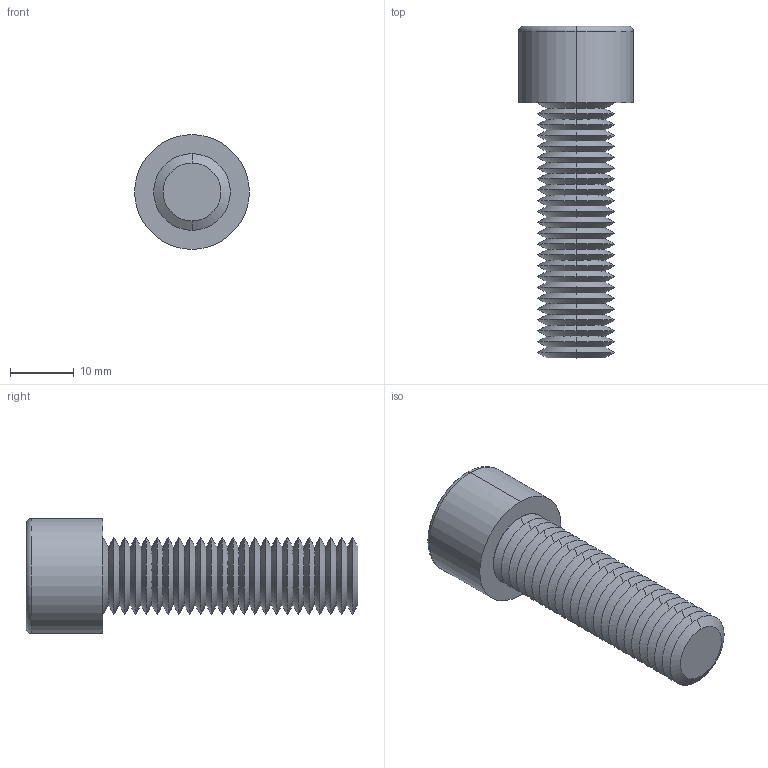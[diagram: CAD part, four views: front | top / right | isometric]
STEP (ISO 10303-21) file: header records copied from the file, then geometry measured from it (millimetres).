
FILE_DESCRIPTION (( 'STEP AP203' ), '1' );
FILE_NAME ('91N.120.0400.step', '2025-05-20T08:56:03', ( '' ), ( '' ), 'SwSTEP 2.0', 'SolidWorks 2019', '' );
FILE_SCHEMA (( 'CONFIG_CONTROL_DESIGN' ));
Length unit declared in the file: millimetre
Products named in the file (1): 91N.120.0400
Bounding box: 18 x 52 x 18 mm (x, y, z)
Volume: 5607.8 mm3; surface area: 4116.9 mm2
Topology: 1 solids, 1 shells, 124 faces, 247 edges, 125 vertices
Faces by surface type: cone 103, plane 15, cylinder 4, torus 2
Entity records: 3182 total; most frequent: DIRECTION 607, CARTESIAN_POINT 526, ORIENTED_EDGE 490, EDGE_CURVE 245, AXIS2_PLACEMENT_3D 244, EDGE_LOOP 126, VERTEX_POINT 125, FACE_OUTER_BOUND 124
